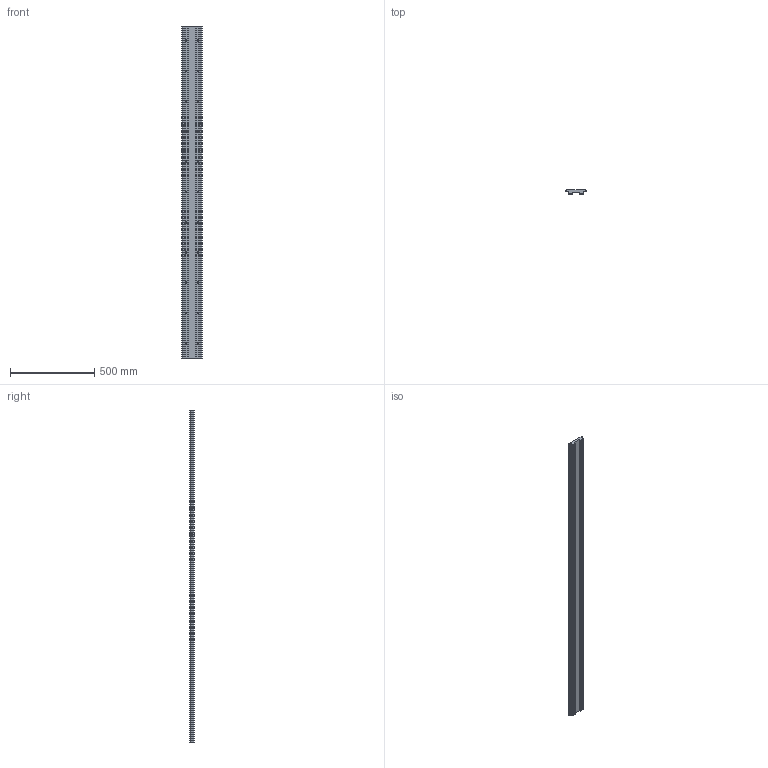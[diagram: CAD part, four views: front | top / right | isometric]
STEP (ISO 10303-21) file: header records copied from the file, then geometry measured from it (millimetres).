
FILE_DESCRIPTION(('STEP AP203'),'1');
FILE_NAME('slide_nl120l1976p2.stp','2022-07-01T05:47:33',('TraceParts'),('TraceParts S.A.'),'Spatial InterOp 3D',' ',' ');
FILE_SCHEMA(('CONFIG_CONTROL_DESIGN'));
Length unit declared in the file: millimetre
Products named in the file (1): 1
Bounding box: 119.61 x 24.41 x 1976 mm (x, y, z)
Volume: 3764599.8 mm3; surface area: 611716.1 mm2
Topology: 1 solids, 1 shells, 148 faces, 372 edges, 248 vertices
Faces by surface type: cylinder 100, plane 48
Entity records: 4668 total; most frequent: DIRECTION 870, CARTESIAN_POINT 769, ORIENTED_EDGE 744, EDGE_CURVE 372, AXIS2_PLACEMENT_3D 349, VERTEX_POINT 248, EDGE_LOOP 214, CIRCLE 200
